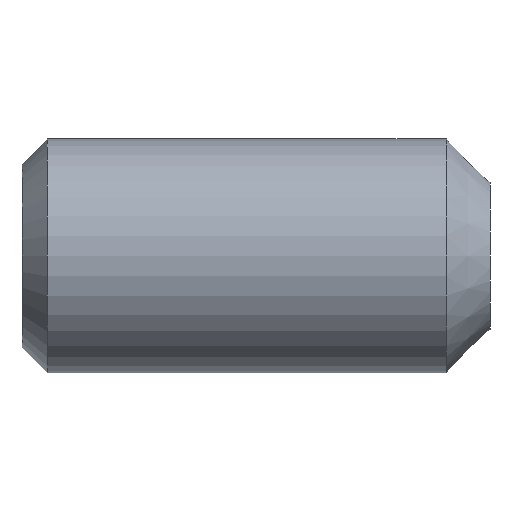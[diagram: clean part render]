
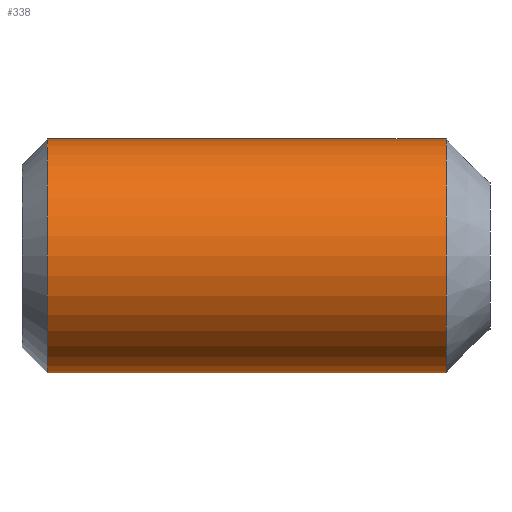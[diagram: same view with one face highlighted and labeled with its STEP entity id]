
A CAD part, front view. The second image highlights one B-rep face of the part: STEP entity #338.
In plain terms, the highlighted cylindrical face has radius 2 mm (diameter 4 mm), a full revolution.
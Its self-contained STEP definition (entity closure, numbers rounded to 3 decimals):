
#18=FACE_BOUND('',#127,.T.);
#22=CYLINDRICAL_SURFACE('',#382,2.);
#97=FACE_OUTER_BOUND('',#126,.T.);
#126=EDGE_LOOP('',(#295));
#127=EDGE_LOOP('',(#296));
#147=CIRCLE('',#381,2.);
#148=CIRCLE('',#383,2.);
#177=VERTEX_POINT('',#591);
#178=VERTEX_POINT('',#594);
#219=EDGE_CURVE('',#177,#177,#147,.T.);
#220=EDGE_CURVE('',#178,#178,#148,.T.);
#295=ORIENTED_EDGE('',*,*,#219,.T.);
#296=ORIENTED_EDGE('',*,*,#220,.F.);
#338=ADVANCED_FACE('',(#97,#18),#22,.T.);
#381=AXIS2_PLACEMENT_3D('',#592,#483,#484);
#382=AXIS2_PLACEMENT_3D('',#593,#485,#486);
#383=AXIS2_PLACEMENT_3D('',#595,#487,#488);
#483=DIRECTION('center_axis',(-1.,0.,0.));
#484=DIRECTION('ref_axis',(0.,0.,1.));
#485=DIRECTION('center_axis',(-1.,0.,0.));
#486=DIRECTION('ref_axis',(0.,1.,0.));
#487=DIRECTION('center_axis',(-1.,0.,0.));
#488=DIRECTION('ref_axis',(0.,0.,1.));
#591=CARTESIAN_POINT('',(7.25,2.,0.));
#592=CARTESIAN_POINT('Origin',(7.25,0.,0.));
#593=CARTESIAN_POINT('Origin',(3.84,0.,0.));
#594=CARTESIAN_POINT('',(0.43,2.,0.));
#595=CARTESIAN_POINT('Origin',(0.43,0.,0.));
